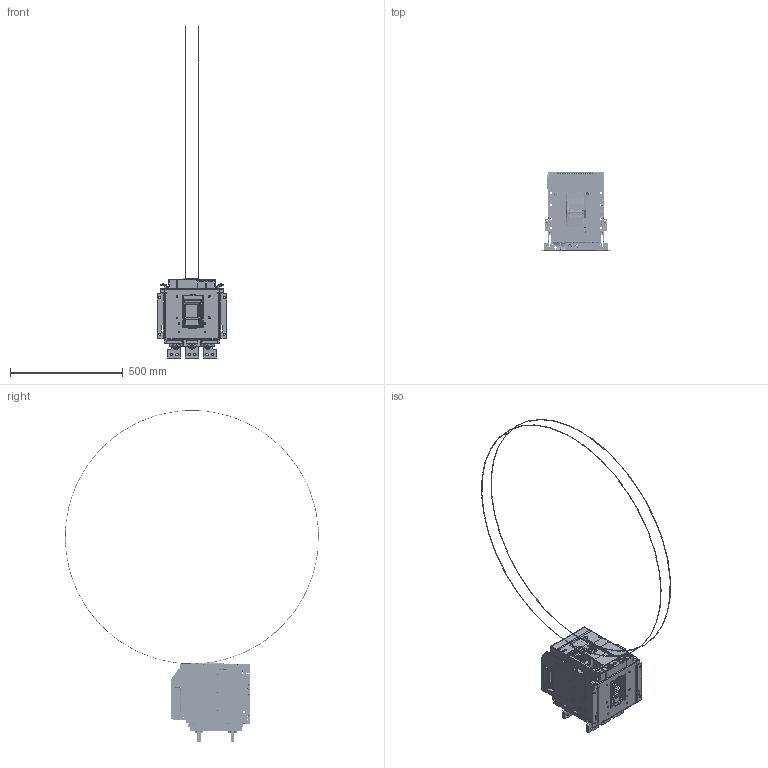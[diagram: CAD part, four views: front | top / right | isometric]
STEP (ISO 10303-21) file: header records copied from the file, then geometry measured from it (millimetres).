
FILE_DESCRIPTION((''),'2;1');
FILE_NAME('ASM0006_ASM','2017-01-18T',('0031'),(''),'PRO/ENGINEER BY PARAMETRIC TECHNOLOGY CORPORATION, 2010280','PRO/ENGINEER BY PARAMETRIC TECHNOLOGY CORPORATION, 2010280','');
FILE_SCHEMA(('CONFIG_CONTROL_DESIGN'));
Products named in the file (45): 8-024-504_7; 8-300-164_8; 8-141-125_2; 8-860-349_5; 8-441-081_2; 5-024-172_ASM_9_ASM; 8-050-244_10; 8-960-058_2; 8-960-056_3; 8-960-057_2; 8-960-060_2; 8-960-059_4; 8-125-057_4; 8-123-120_2; 8-261-001_8; 8-125-001_6; 8-210-176_2; 5-124-010_ASM_3_ASM; 5-050-095_ASM_15_ASM; 8-050-243_9; 8-261-002_6; 8-125-002_7; 5-124-011_ASM_3_ASM; 5-050-096_ASM_9_ASM; 5-020-048_11; 8-580-199_4; 8-580-188-1_3; 8043A0101002_4; 8235A0101001_7; 8282A0820004_4; 8750A0101002_8; 5750A1526002_ASM_5_ASM; 5-020-049-1_ASM_4_ASM; 8-300-166_12; 8-024-128_12; 5-574-091_ASM_5_ASM; 8-015-021_13; 8ZTD-043-780_4; 8ZTD-043-781_2; GBT93-8_7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
Assembly tree (75 placements, depth 5):
  ASM0006_ASM
    NA8-1600-DO-3P_ASM_2_ASM
      5-024-172_ASM_9_ASM
        8-024-504_7
        8-300-164_8
        8-141-125_2
        8-860-349_5
        8-441-081_2
      5-050-095_ASM_15_ASM
        8-050-244_10
        8-960-058_2
        8-960-056_3
        8-960-057_2
        8-960-060_2
        8-960-059_4
        8-125-057_4
        8-123-120_2
        5-124-010_ASM_3_ASM
          8-261-001_8
          8-125-001_6
          8-210-176_2
      5-050-096_ASM_9_ASM
        8-050-243_9
        8-125-057_4
        8-123-120_2
        5-124-011_ASM_3_ASM
          8-261-002_6
          8-125-002_7
          8-210-176_2
      5-020-049-1_ASM_4_ASM
        5-020-048_11
        8-580-199_4  x2
        8-580-188-1_3  x4
        5750A1526002_ASM_5_ASM  x2
          8043A0101002_4
          8235A0101001_7
          8282A0820004_4
          8750A0101002_8
      8-300-166_12
      5-574-091_ASM_5_ASM
        8-024-128_12
      8-015-021_13
      8ZTD-043-780_4
      8ZTD-043-781_2
      GBT93-8_7  x12
      GBT70_1-M8X20_15  x12
      8196A03060012_2
      8-300-162-2_3
Bounding box: 308 x 1128.3 x 1475.6 mm (x, y, z)
Surface area: 2063534.5 mm2 (no closed solid volume)
Topology: 0 solids, 0 shells, 5240 faces, 29070 edges, 29024 vertices
Faces by surface type: bspline 5218, torus 22
Entity records: 337205 total; most frequent: CARTESIAN_POINT 133097, DIRECTION 32727, TRIMMED_CURVE 29846, VECTOR 27393, LINE 27393, DEFINITIONAL_REPRESENTATION 21880, PCURVE 21880, COMPOSITE_CURVE_SEGMENT 21880
